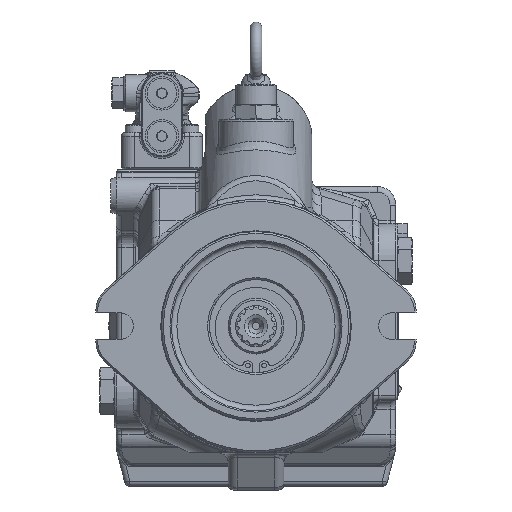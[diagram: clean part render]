
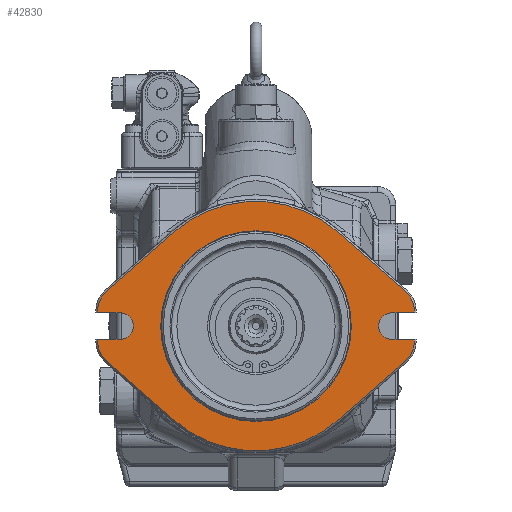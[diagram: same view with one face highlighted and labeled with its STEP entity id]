
A CAD part, front view. The second image highlights one B-rep face of the part: STEP entity #42830.
In plain terms, the highlighted planar face has unit normal (0, -1, 0).
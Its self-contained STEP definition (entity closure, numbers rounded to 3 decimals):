
#2548=FACE_BOUND('',#8374,.T.);
#3241=CIRCLE('',#45892,7.15);
#3248=CIRCLE('',#45910,7.15);
#3276=CIRCLE('',#45976,51.2);
#3278=CIRCLE('',#45979,14.);
#3279=CIRCLE('',#45980,67.);
#3280=CIRCLE('',#45981,14.);
#3281=CIRCLE('',#45982,14.);
#3282=CIRCLE('',#45983,67.);
#3283=CIRCLE('',#45984,14.);
#5731=FACE_OUTER_BOUND('',#8373,.T.);
#8373=EDGE_LOOP('',(#32734,#32735,#32736,#32737,#32738,#32739,#32740,#32741,
#32742,#32743,#32744,#32745,#32746,#32747,#32748,#32749,#32750,#32751,#32752,
#32753));
#8374=EDGE_LOOP('',(#32754));
#11662=LINE('',#69651,#14785);
#11680=LINE('',#69710,#14803);
#11693=LINE('',#69741,#14816);
#11697=LINE('',#69749,#14820);
#11701=LINE('',#69764,#14824);
#11716=LINE('',#69793,#14839);
#11717=LINE('',#69796,#14840);
#11744=LINE('',#70212,#14867);
#11745=LINE('',#70216,#14868);
#11746=LINE('',#70220,#14869);
#11747=LINE('',#70225,#14870);
#11748=LINE('',#70229,#14871);
#14785=VECTOR('',#53441,10.);
#14803=VECTOR('',#53495,10.);
#14816=VECTOR('',#53524,10.);
#14820=VECTOR('',#53530,10.);
#14824=VECTOR('',#53544,10.);
#14839=VECTOR('',#53573,10.);
#14840=VECTOR('',#53576,10.);
#14867=VECTOR('',#53699,10.);
#14868=VECTOR('',#53702,10.);
#14869=VECTOR('',#53705,10.);
#14870=VECTOR('',#53710,10.);
#14871=VECTOR('',#53713,10.);
#18221=VERTEX_POINT('',#69648);
#18222=VERTEX_POINT('',#69650);
#18224=VERTEX_POINT('',#69656);
#18244=VERTEX_POINT('',#69707);
#18245=VERTEX_POINT('',#69709);
#18247=VERTEX_POINT('',#69715);
#18255=VERTEX_POINT('',#69739);
#18258=VERTEX_POINT('',#69747);
#18264=VERTEX_POINT('',#69763);
#18271=VERTEX_POINT('',#69791);
#18272=VERTEX_POINT('',#69795);
#18350=VERTEX_POINT('',#70207);
#18351=VERTEX_POINT('',#70211);
#18352=VERTEX_POINT('',#70213);
#18353=VERTEX_POINT('',#70215);
#18354=VERTEX_POINT('',#70217);
#18355=VERTEX_POINT('',#70219);
#18356=VERTEX_POINT('',#70222);
#18357=VERTEX_POINT('',#70224);
#18358=VERTEX_POINT('',#70226);
#18359=VERTEX_POINT('',#70228);
#23166=EDGE_CURVE('',#18222,#18221,#11662,.T.);
#23170=EDGE_CURVE('',#18221,#18224,#3241,.T.);
#23195=EDGE_CURVE('',#18245,#18244,#11680,.T.);
#23199=EDGE_CURVE('',#18244,#18247,#3248,.T.);
#23211=EDGE_CURVE('',#18247,#18255,#11693,.T.);
#23215=EDGE_CURVE('',#18224,#18258,#11697,.T.);
#23222=EDGE_CURVE('',#18245,#18264,#11701,.T.);
#23237=EDGE_CURVE('',#18271,#18258,#11716,.T.);
#23238=EDGE_CURVE('',#18222,#18272,#11717,.T.);
#23327=EDGE_CURVE('',#18350,#18350,#3276,.T.);
#23329=EDGE_CURVE('',#18351,#18255,#11744,.T.);
#23330=EDGE_CURVE('',#18352,#18351,#3278,.T.);
#23331=EDGE_CURVE('',#18353,#18352,#11745,.T.);
#23332=EDGE_CURVE('',#18354,#18353,#3279,.T.);
#23333=EDGE_CURVE('',#18355,#18354,#11746,.T.);
#23334=EDGE_CURVE('',#18272,#18355,#3280,.T.);
#23335=EDGE_CURVE('',#18356,#18271,#3281,.T.);
#23336=EDGE_CURVE('',#18357,#18356,#11747,.T.);
#23337=EDGE_CURVE('',#18358,#18357,#3282,.T.);
#23338=EDGE_CURVE('',#18359,#18358,#11748,.T.);
#23339=EDGE_CURVE('',#18264,#18359,#3283,.T.);
#32734=ORIENTED_EDGE('',*,*,#23211,.T.);
#32735=ORIENTED_EDGE('',*,*,#23329,.F.);
#32736=ORIENTED_EDGE('',*,*,#23330,.F.);
#32737=ORIENTED_EDGE('',*,*,#23331,.F.);
#32738=ORIENTED_EDGE('',*,*,#23332,.F.);
#32739=ORIENTED_EDGE('',*,*,#23333,.F.);
#32740=ORIENTED_EDGE('',*,*,#23334,.F.);
#32741=ORIENTED_EDGE('',*,*,#23238,.F.);
#32742=ORIENTED_EDGE('',*,*,#23166,.T.);
#32743=ORIENTED_EDGE('',*,*,#23170,.T.);
#32744=ORIENTED_EDGE('',*,*,#23215,.T.);
#32745=ORIENTED_EDGE('',*,*,#23237,.F.);
#32746=ORIENTED_EDGE('',*,*,#23335,.F.);
#32747=ORIENTED_EDGE('',*,*,#23336,.F.);
#32748=ORIENTED_EDGE('',*,*,#23337,.F.);
#32749=ORIENTED_EDGE('',*,*,#23338,.F.);
#32750=ORIENTED_EDGE('',*,*,#23339,.F.);
#32751=ORIENTED_EDGE('',*,*,#23222,.F.);
#32752=ORIENTED_EDGE('',*,*,#23195,.T.);
#32753=ORIENTED_EDGE('',*,*,#23199,.T.);
#32754=ORIENTED_EDGE('',*,*,#23327,.F.);
#39358=PLANE('',#45978);
#42830=ADVANCED_FACE('',(#5731,#2548),#39358,.F.);
#45892=AXIS2_PLACEMENT_3D('',#69658,#53447,#53448);
#45910=AXIS2_PLACEMENT_3D('',#69717,#53501,#53502);
#45976=AXIS2_PLACEMENT_3D('',#70208,#53693,#53694);
#45978=AXIS2_PLACEMENT_3D('',#70210,#53697,#53698);
#45979=AXIS2_PLACEMENT_3D('',#70214,#53700,#53701);
#45980=AXIS2_PLACEMENT_3D('',#70218,#53703,#53704);
#45981=AXIS2_PLACEMENT_3D('',#70221,#53706,#53707);
#45982=AXIS2_PLACEMENT_3D('',#70223,#53708,#53709);
#45983=AXIS2_PLACEMENT_3D('',#70227,#53711,#53712);
#45984=AXIS2_PLACEMENT_3D('',#70230,#53714,#53715);
#53441=DIRECTION('',(1.,0.,0.));
#53447=DIRECTION('center_axis',(0.,1.,0.));
#53448=DIRECTION('ref_axis',(0.,0.,-1.));
#53495=DIRECTION('',(-1.,0.,0.));
#53501=DIRECTION('center_axis',(0.,1.,0.));
#53502=DIRECTION('ref_axis',(0.,0.,1.));
#53524=DIRECTION('',(1.,0.,0.));
#53530=DIRECTION('',(-1.,0.,0.));
#53544=DIRECTION('',(0.,0.,-1.));
#53573=DIRECTION('',(0.,0.,1.));
#53576=DIRECTION('',(0.,0.,1.));
#53693=DIRECTION('center_axis',(0.,-1.,0.));
#53694=DIRECTION('ref_axis',(0.,0.,-1.));
#53697=DIRECTION('center_axis',(0.,1.,0.));
#53698=DIRECTION('ref_axis',(0.,0.,1.));
#53699=DIRECTION('',(0.,0.,-1.));
#53700=DIRECTION('center_axis',(0.,1.,0.));
#53701=DIRECTION('ref_axis',(0.911,0.,0.413));
#53702=DIRECTION('',(0.752,0.,-0.66));
#53703=DIRECTION('center_axis',(0.,1.,0.));
#53704=DIRECTION('ref_axis',(0.,0.,1.));
#53705=DIRECTION('',(0.752,0.,0.66));
#53706=DIRECTION('center_axis',(0.,1.,0.));
#53707=DIRECTION('ref_axis',(-0.911,0.,0.413));
#53708=DIRECTION('center_axis',(0.,1.,0.));
#53709=DIRECTION('ref_axis',(-0.911,0.,-0.413));
#53710=DIRECTION('',(-0.752,0.,0.66));
#53711=DIRECTION('center_axis',(0.,1.,0.));
#53712=DIRECTION('ref_axis',(0.,0.,-1.));
#53713=DIRECTION('',(-0.752,0.,-0.66));
#53714=DIRECTION('center_axis',(0.,1.,0.));
#53715=DIRECTION('ref_axis',(0.911,0.,-0.413));
#69648=CARTESIAN_POINT('',(-73.,-163.,7.15));
#69650=CARTESIAN_POINT('',(-85.,-163.,7.15));
#69651=CARTESIAN_POINT('',(-36.5,-163.,7.15));
#69656=CARTESIAN_POINT('',(-73.,-163.,-7.15));
#69658=CARTESIAN_POINT('Origin',(-73.,-163.,0.));
#69707=CARTESIAN_POINT('',(73.,-163.,-7.15));
#69709=CARTESIAN_POINT('',(85.,-163.,-7.15));
#69710=CARTESIAN_POINT('',(36.5,-163.,-7.15));
#69715=CARTESIAN_POINT('',(73.,-163.,7.15));
#69717=CARTESIAN_POINT('Origin',(73.,-163.,0.));
#69739=CARTESIAN_POINT('',(85.,-163.,7.15));
#69741=CARTESIAN_POINT('',(59.698,-163.,7.15));
#69747=CARTESIAN_POINT('',(-85.,-163.,-7.15));
#69749=CARTESIAN_POINT('',(-51.803,-163.,-7.15));
#69763=CARTESIAN_POINT('',(85.,-163.,-8.207));
#69764=CARTESIAN_POINT('',(85.,-163.,56.791));
#69791=CARTESIAN_POINT('',(-85.,-163.,-8.207));
#69793=CARTESIAN_POINT('',(-85.,-163.,64.291));
#69795=CARTESIAN_POINT('',(-85.,-163.,8.207));
#69796=CARTESIAN_POINT('',(-85.,-163.,64.291));
#70207=CARTESIAN_POINT('',(0.,-163.,51.2));
#70208=CARTESIAN_POINT('Origin',(0.,-163.,0.));
#70210=CARTESIAN_POINT('Origin',(0.,-163.,90.581));
#70211=CARTESIAN_POINT('',(85.,-163.,8.207));
#70212=CARTESIAN_POINT('',(85.,-163.,56.791));
#70213=CARTESIAN_POINT('',(80.234,-163.,18.729));
#70214=CARTESIAN_POINT('Origin',(71.,-163.,8.207));
#70215=CARTESIAN_POINT('',(44.193,-163.,50.358));
#70216=CARTESIAN_POINT('',(24.466,-163.,67.67));
#70217=CARTESIAN_POINT('',(-44.193,-163.,50.358));
#70218=CARTESIAN_POINT('Origin',(0.,-163.,0.));
#70219=CARTESIAN_POINT('',(-80.234,-163.,18.729));
#70220=CARTESIAN_POINT('',(-14.179,-163.,76.698));
#70221=CARTESIAN_POINT('Origin',(-71.,-163.,8.207));
#70222=CARTESIAN_POINT('',(-80.234,-163.,-18.729));
#70223=CARTESIAN_POINT('Origin',(-71.,-163.,-8.207));
#70224=CARTESIAN_POINT('',(-44.193,-163.,-50.358));
#70225=CARTESIAN_POINT('',(-84.494,-163.,-14.991));
#70226=CARTESIAN_POINT('',(44.193,-163.,-50.358));
#70227=CARTESIAN_POINT('Origin',(0.,-163.,0.));
#70228=CARTESIAN_POINT('',(80.234,-163.,-18.729));
#70229=CARTESIAN_POINT('',(74.207,-163.,-24.018));
#70230=CARTESIAN_POINT('Origin',(71.,-163.,-8.207));
